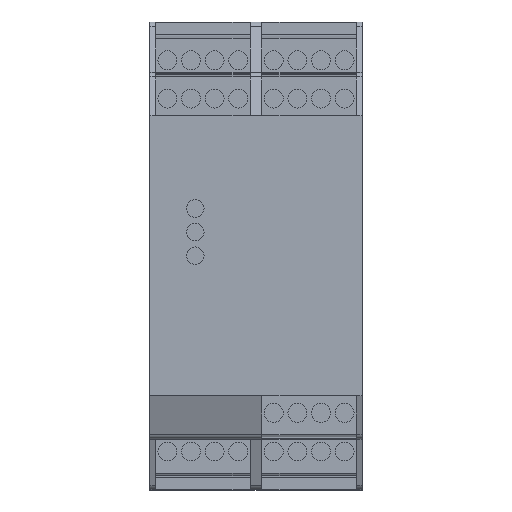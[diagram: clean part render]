
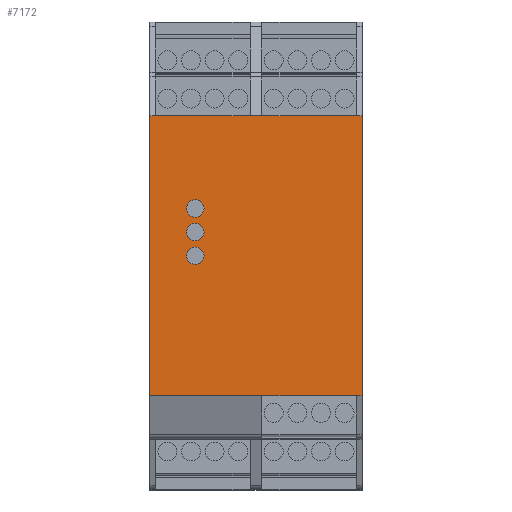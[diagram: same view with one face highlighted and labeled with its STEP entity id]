
A CAD part, top view. The second image highlights one B-rep face of the part: STEP entity #7172.
In plain terms, the highlighted planar face has unit normal (0, 0, 1).
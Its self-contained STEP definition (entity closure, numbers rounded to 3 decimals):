
#3004 = EDGE_CURVE( '', #6240, #3422, #8791, .T. );
#3372 = EDGE_CURVE( '', #7950, #6674, #9198, .T. );
#3422 = VERTEX_POINT( '', #9255 );
#4482 = EDGE_CURVE( '', #6674, #6208, #10416, .T. );
#4618 = EDGE_CURVE( '', #7950, #5974, #10562, .T. );
#4624 = EDGE_CURVE( '', #6580, #6602, #10570, .T. );
#4932 = EDGE_CURVE( '', #7562, #8614, #10914, .T. );
#4934 = EDGE_CURVE( '', #6486, #8534, #10916, .T. );
#5160 = EDGE_CURVE( '', #8534, #8418, #11172, .T. );
#5512 = EDGE_CURVE( '', #6208, #6240, #11555, .T. );
#5804 = VERTEX_POINT( '', #11874 );
#5974 = VERTEX_POINT( '', #12071 );
#6208 = VERTEX_POINT( '', #12324 );
#6240 = VERTEX_POINT( '', #12359 );
#6486 = VERTEX_POINT( '', #12631 );
#6580 = VERTEX_POINT( '', #12733 );
#6602 = VERTEX_POINT( '', #12759 );
#6674 = VERTEX_POINT( '', #12839 );
#6750 = EDGE_CURVE( '', #3422, #5804, #12922, .T. );
#7076 = EDGE_CURVE( '', #8614, #7562, #13289, .T. );
#7172 = ADVANCED_FACE( '', ( #13397, #13398, #13399, #13400 ), #13401, .T. );
#7340 = VERTEX_POINT( '', #13585 );
#7394 = EDGE_CURVE( '', #6602, #6580, #13643, .T. );
#7494 = EDGE_CURVE( '', #7340, #7660, #13753, .T. );
#7562 = VERTEX_POINT( '', #13824 );
#7660 = VERTEX_POINT( '', #13936 );
#7950 = VERTEX_POINT( '', #14258 );
#8024 = EDGE_CURVE( '', #7660, #7340, #14338, .T. );
#8170 = EDGE_CURVE( '', #8418, #5804, #14499, .T. );
#8172 = EDGE_CURVE( '', #5974, #6486, #14501, .T. );
#8418 = VERTEX_POINT( '', #14776 );
#8534 = VERTEX_POINT( '', #14902 );
#8614 = VERTEX_POINT( '', #14991 );
#8791 = LINE( '', #15212, #15213 );
#9198 = LINE( '', #15788, #15789 );
#9255 = CARTESIAN_POINT( '', ( 43.75, 29.6, 107.9 ) );
#10416 = LINE( '', #17514, #17515 );
#10562 = LINE( '', #17727, #17728 );
#10570 = CIRCLE( '', #17737, 1.85 );
#10914 = CIRCLE( '', #18247, 1.85 );
#10916 = LINE( '', #18250, #18251 );
#11172 = LINE( '', #18620, #18621 );
#11555 = LINE( '', #19157, #19158 );
#11874 = CARTESIAN_POINT( '', ( 45., 29.6, 107.9 ) );
#12071 = CARTESIAN_POINT( '', ( 0., -29.6, 107.9 ) );
#12324 = CARTESIAN_POINT( '', ( 21.25, 29.6, 107.9 ) );
#12359 = CARTESIAN_POINT( '', ( 23.75, 29.6, 107.9 ) );
#12631 = CARTESIAN_POINT( '', ( 23.75, -29.6, 107.9 ) );
#12733 = CARTESIAN_POINT( '', ( 7.8, 0., 107.9 ) );
#12759 = CARTESIAN_POINT( '', ( 11.5, 0., 107.9 ) );
#12839 = CARTESIAN_POINT( '', ( 1.25, 29.6, 107.9 ) );
#12922 = LINE( '', #21064, #21065 );
#13289 = CIRCLE( '', #21577, 1.85 );
#13397 = FACE_BOUND( '', #21739, .T. );
#13398 = FACE_BOUND( '', #21740, .T. );
#13399 = FACE_BOUND( '', #21741, .T. );
#13400 = FACE_OUTER_BOUND( '', #21742, .T. );
#13401 = PLANE( '', #21743 );
#13585 = CARTESIAN_POINT( '', ( 11.5, 5., 107.9 ) );
#13643 = CIRCLE( '', #22088, 1.85 );
#13753 = CIRCLE( '', #22235, 1.85 );
#13824 = CARTESIAN_POINT( '', ( 7.8, 10., 107.9 ) );
#13936 = CARTESIAN_POINT( '', ( 7.8, 5., 107.9 ) );
#14258 = CARTESIAN_POINT( '', ( 0., 29.6, 107.9 ) );
#14338 = CIRCLE( '', #23078, 1.85 );
#14499 = LINE( '', #23316, #23317 );
#14501 = LINE( '', #23320, #23321 );
#14776 = CARTESIAN_POINT( '', ( 45., -29.6, 107.9 ) );
#14902 = CARTESIAN_POINT( '', ( 43.75, -29.6, 107.9 ) );
#14991 = CARTESIAN_POINT( '', ( 11.5, 10., 107.9 ) );
#15212 = CARTESIAN_POINT( '', ( 0., 29.6, 107.9 ) );
#15213 = VECTOR( '', #24213, 1. );
#15788 = CARTESIAN_POINT( '', ( 0., 29.6, 107.9 ) );
#15789 = VECTOR( '', #24673, 1. );
#17514 = CARTESIAN_POINT( '', ( 0., 29.6, 107.9 ) );
#17515 = VECTOR( '', #25922, 1. );
#17727 = CARTESIAN_POINT( '', ( 0., 29.6, 107.9 ) );
#17728 = VECTOR( '', #26051, 1. );
#17737 = AXIS2_PLACEMENT_3D( '', #26071, #26072, #26073 );
#18247 = AXIS2_PLACEMENT_3D( '', #26469, #26470, #26471 );
#18250 = CARTESIAN_POINT( '', ( 0., -29.6, 107.9 ) );
#18251 = VECTOR( '', #26472, 1. );
#18620 = CARTESIAN_POINT( '', ( 0., -29.6, 107.9 ) );
#18621 = VECTOR( '', #26760, 1. );
#19157 = CARTESIAN_POINT( '', ( 0., 29.6, 107.9 ) );
#19158 = VECTOR( '', #27113, 1. );
#21064 = CARTESIAN_POINT( '', ( 0., 29.6, 107.9 ) );
#21065 = VECTOR( '', #28589, 1. );
#21577 = AXIS2_PLACEMENT_3D( '', #28978, #28979, #28980 );
#21739 = EDGE_LOOP( '', ( #29088, #29089 ) );
#21740 = EDGE_LOOP( '', ( #29090, #29091 ) );
#21741 = EDGE_LOOP( '', ( #29092, #29093 ) );
#21742 = EDGE_LOOP( '', ( #29094, #29095, #29096, #29097, #29098, #29099, #29100, #29101, #29102, #29103 ) );
#21743 = AXIS2_PLACEMENT_3D( '', #29104, #29105, #29106 );
#22088 = AXIS2_PLACEMENT_3D( '', #29326, #29327, #29328 );
#22235 = AXIS2_PLACEMENT_3D( '', #29432, #29433, #29434 );
#23078 = AXIS2_PLACEMENT_3D( '', #30055, #30056, #30057 );
#23316 = CARTESIAN_POINT( '', ( 45., 29.6, 107.9 ) );
#23317 = VECTOR( '', #30219, 1. );
#23320 = CARTESIAN_POINT( '', ( 0., -29.6, 107.9 ) );
#23321 = VECTOR( '', #30220, 1. );
#24213 = DIRECTION( '', ( 1., 0., 0. ) );
#24673 = DIRECTION( '', ( 1., 0., 0. ) );
#25922 = DIRECTION( '', ( 1., 0., 0. ) );
#26051 = DIRECTION( '', ( 0., -1., 0. ) );
#26071 = CARTESIAN_POINT( '', ( 9.65, 0., 107.9 ) );
#26072 = DIRECTION( '', ( 0., 0., -1. ) );
#26073 = DIRECTION( '', ( 1., 0., 0. ) );
#26469 = CARTESIAN_POINT( '', ( 9.65, 10., 107.9 ) );
#26470 = DIRECTION( '', ( 0., 0., -1. ) );
#26471 = DIRECTION( '', ( 1., 0., 0. ) );
#26472 = DIRECTION( '', ( 1., 0., 0. ) );
#26760 = DIRECTION( '', ( 1., 0., 0. ) );
#27113 = DIRECTION( '', ( 1., 0., 0. ) );
#28589 = DIRECTION( '', ( 1., 0., 0. ) );
#28978 = CARTESIAN_POINT( '', ( 9.65, 10., 107.9 ) );
#28979 = DIRECTION( '', ( 0., 0., -1. ) );
#28980 = DIRECTION( '', ( 1., 0., 0. ) );
#29088 = ORIENTED_EDGE( '', *, *, #7394, .T. );
#29089 = ORIENTED_EDGE( '', *, *, #4624, .T. );
#29090 = ORIENTED_EDGE( '', *, *, #7076, .T. );
#29091 = ORIENTED_EDGE( '', *, *, #4932, .T. );
#29092 = ORIENTED_EDGE( '', *, *, #7494, .T. );
#29093 = ORIENTED_EDGE( '', *, *, #8024, .T. );
#29094 = ORIENTED_EDGE( '', *, *, #8170, .T. );
#29095 = ORIENTED_EDGE( '', *, *, #6750, .F. );
#29096 = ORIENTED_EDGE( '', *, *, #3004, .F. );
#29097 = ORIENTED_EDGE( '', *, *, #5512, .F. );
#29098 = ORIENTED_EDGE( '', *, *, #4482, .F. );
#29099 = ORIENTED_EDGE( '', *, *, #3372, .F. );
#29100 = ORIENTED_EDGE( '', *, *, #4618, .T. );
#29101 = ORIENTED_EDGE( '', *, *, #8172, .T. );
#29102 = ORIENTED_EDGE( '', *, *, #4934, .T. );
#29103 = ORIENTED_EDGE( '', *, *, #5160, .T. );
#29104 = CARTESIAN_POINT( '', ( 0., -29.6, 107.9 ) );
#29105 = DIRECTION( '', ( 0., 0., 1. ) );
#29106 = DIRECTION( '', ( 0., -1., 0. ) );
#29326 = CARTESIAN_POINT( '', ( 9.65, 0., 107.9 ) );
#29327 = DIRECTION( '', ( 0., 0., -1. ) );
#29328 = DIRECTION( '', ( 1., 0., 0. ) );
#29432 = CARTESIAN_POINT( '', ( 9.65, 5., 107.9 ) );
#29433 = DIRECTION( '', ( 0., 0., -1. ) );
#29434 = DIRECTION( '', ( 1., 0., 0. ) );
#30055 = CARTESIAN_POINT( '', ( 9.65, 5., 107.9 ) );
#30056 = DIRECTION( '', ( 0., 0., -1. ) );
#30057 = DIRECTION( '', ( 1., 0., 0. ) );
#30219 = DIRECTION( '', ( 0., 1., 0. ) );
#30220 = DIRECTION( '', ( 1., 0., 0. ) );
